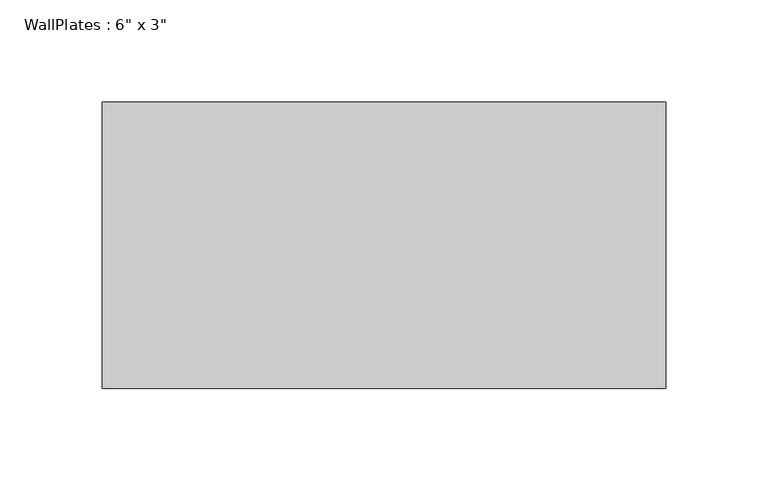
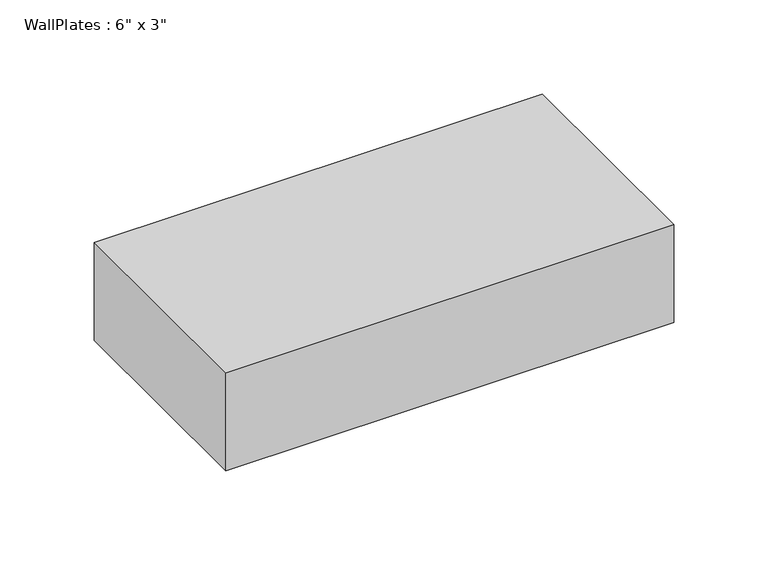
"""IFC4 building model written with IfcOpenShell, lengths in millimetres: beam geometry."""

from ifc_helpers import new_model, si_unit, frame, origin, place, context, project, spatial, polyline, outline, extrude, source, transform, mapped, element, save


def beam_b4771957(model_context):
    return source(origin(), model_context, "Body", "SweptSolid", [
        extrude(outline(polyline([(-137.3253961, -69.85), (-137.3253961, 69.85), (137.3253961, 69.85), (137.3253961, -69.85), (-137.3253961, -69.85)])), frame((0.0, 0.0, -31.75), z_axis=(0.0, 0.0, 1.0), x_axis=(1.0, 0.0, 0.0)), (0.0, 0.0, 1.0), 63.5),
    ])


if __name__ == "__main__":
    model = new_model("IFC4")
    model_context = context("Model", 3, world=origin())
    ifc_project = project(units=[si_unit("LENGTHUNIT", "METRE", prefix="MILLI")], contexts=[model_context])
    site = spatial("IfcSite", under=ifc_project)
    building = spatial("IfcBuilding", under=site)
    placement = place(None, origin())
    beam_shape = beam_b4771957(model_context)
    element("IfcBeam", 1, ObjectType="WallPlates : 6\" x 3\"", at=placement, inside=building, context=model_context, shape_type="MappedRepresentation", body=[
        mapped(beam_shape, transform((0.0, 0.0, 0.0), x_axis=(1.0, 0.0, 0.0), y_axis=(0.0, 1.0, 0.0), z_axis=(0.0, 0.0, 1.0))),
    ])
    save(model, "model.ifc")
